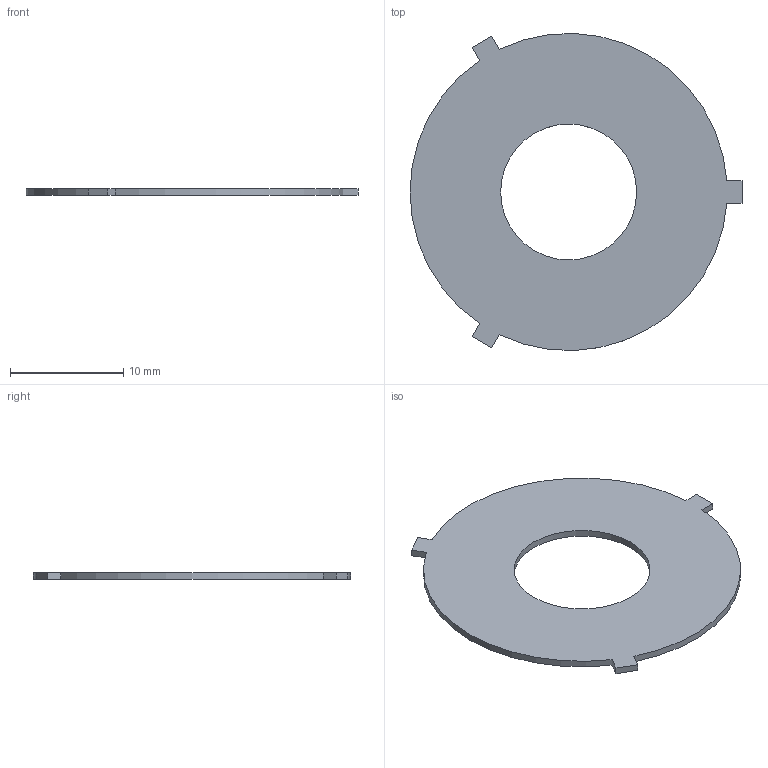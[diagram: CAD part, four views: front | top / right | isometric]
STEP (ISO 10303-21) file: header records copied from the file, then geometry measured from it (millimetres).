
FILE_DESCRIPTION(('Open CASCADE Model'),'2;1');
FILE_NAME('Open CASCADE Shape Model','2026-09-24T19:52:59',('Author'),( 'Open CASCADE'),'Open CASCADE STEP processor 7.8','Open CASCADE 7.8' ,'Unknown');
FILE_SCHEMA(('AUTOMOTIVE_DESIGN { 1 0 10303 214 1 1 1 1 }'));
Length unit declared in the file: millimetre
Products named in the file (1): Open CASCADE STEP translator 7.8 48
Bounding box: 29.3 x 27.98 x 0.6 mm (x, y, z)
Volume: 306.3 mm3; surface area: 1101.3 mm2
Topology: 1 solids, 1 shells, 15 faces, 39 edges, 26 vertices
Faces by surface type: plane 11, cylinder 4
Full cylindrical faces by diameter (mm): 12 x1
Entity records: 970 total; most frequent: CARTESIAN_POINT 171, DIRECTION 145, LINE 89, VECTOR 89, ORIENTED_EDGE 78, PCURVE 78, DEFINITIONAL_REPRESENTATION 78, EDGE_CURVE 39
